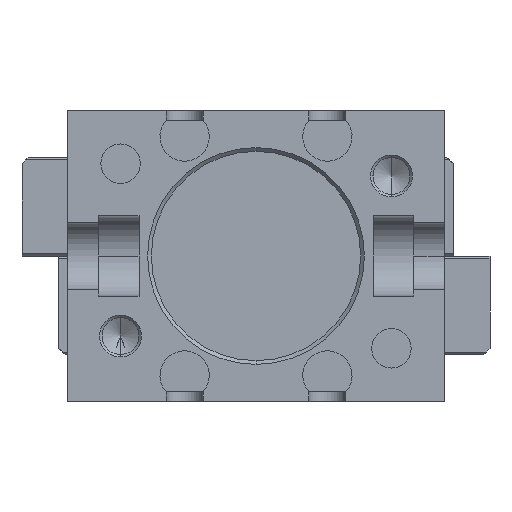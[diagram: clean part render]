
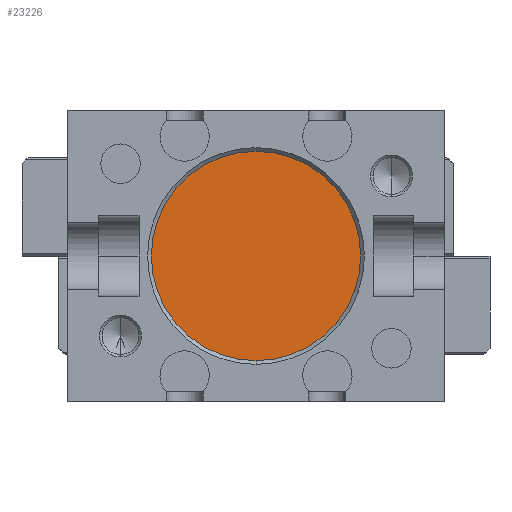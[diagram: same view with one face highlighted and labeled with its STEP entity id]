
A CAD part, front view. The second image highlights one B-rep face of the part: STEP entity #23226.
In plain terms, the highlighted planar face has unit normal (0, -1, 0).
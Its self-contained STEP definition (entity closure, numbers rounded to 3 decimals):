
#1341 = DIRECTION ( 'NONE',  ( 0., -1., 0. ) ) ;
#2023 = EDGE_LOOP ( 'NONE', ( #2222, #15183 ) ) ;
#2222 = ORIENTED_EDGE ( 'NONE', *, *, #46943, .T. ) ;
#3305 = AXIS2_PLACEMENT_3D ( 'NONE', #5200, #30997, #8875 ) ;
#4291 = DIRECTION ( 'NONE',  ( 0., -1., 0. ) ) ;
#5200 = CARTESIAN_POINT ( 'NONE',  ( 0., 2., 0. ) ) ;
#8655 = CIRCLE ( 'NONE', #31637, 8.5 ) ;
#8875 = DIRECTION ( 'NONE',  ( 0., 0., -1. ) ) ;
#11248 = EDGE_CURVE ( 'NONE', #26233, #39534, #8655, .T. ) ;
#15183 = ORIENTED_EDGE ( 'NONE', *, *, #11248, .T. ) ;
#16362 = AXIS2_PLACEMENT_3D ( 'NONE', #26356, #4291, #30092 ) ;
#17131 = CARTESIAN_POINT ( 'NONE',  ( 0., 2., 8.5 ) ) ;
#23226 = ADVANCED_FACE ( 'NONE', ( #27272 ), #41992, .T. ) ;
#23335 = CIRCLE ( 'NONE', #16362, 8.5 ) ;
#23427 = CARTESIAN_POINT ( 'NONE',  ( 0., 2., 0. ) ) ;
#26233 = VERTEX_POINT ( 'NONE', #17131 ) ;
#26319 = CARTESIAN_POINT ( 'NONE',  ( 0., 2., -8.5 ) ) ;
#26356 = CARTESIAN_POINT ( 'NONE',  ( 0., 2., 0. ) ) ;
#27153 = DIRECTION ( 'NONE',  ( 0., 0., -1. ) ) ;
#27272 = FACE_OUTER_BOUND ( 'NONE', #2023, .T. ) ;
#30092 = DIRECTION ( 'NONE',  ( 0., 0., -1. ) ) ;
#30997 = DIRECTION ( 'NONE',  ( 0., -1., 0. ) ) ;
#31637 = AXIS2_PLACEMENT_3D ( 'NONE', #23427, #1341, #27153 ) ;
#39534 = VERTEX_POINT ( 'NONE', #26319 ) ;
#41992 = PLANE ( 'NONE',  #3305 ) ;
#46943 = EDGE_CURVE ( 'NONE', #39534, #26233, #23335, .T. ) ;
